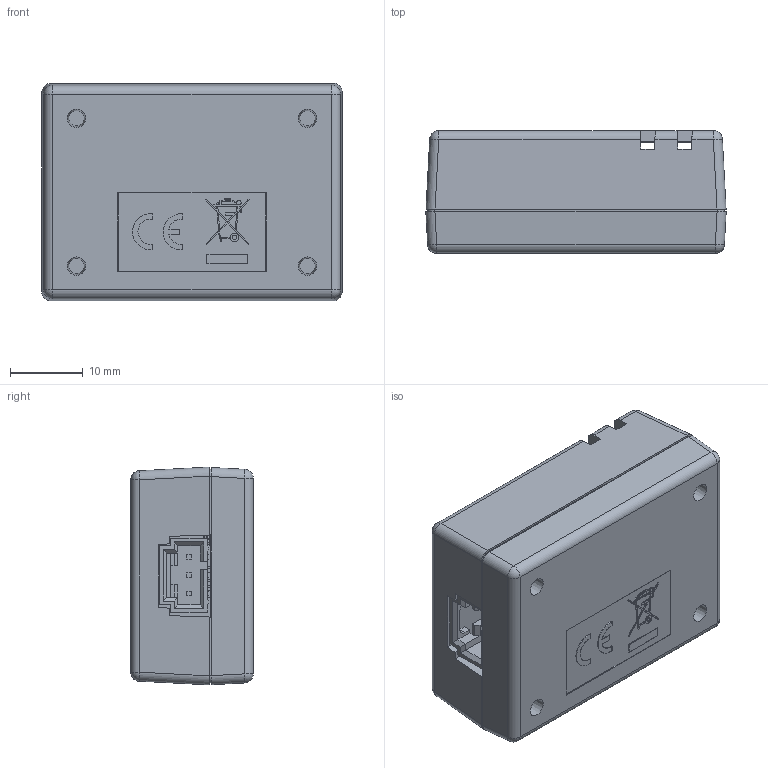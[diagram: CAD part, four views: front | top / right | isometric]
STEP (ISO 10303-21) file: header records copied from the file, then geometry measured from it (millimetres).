
FILE_DESCRIPTION(/* description */ ('Alibre Inc.'),/* implementation_level */ '2;1');
FILE_NAME(/* name */ 'export0',/* time_stamp */ '2018-08-09T08:51:02-06:00',/* author */ (''),/* organization */ (''),/* preprocessor_version */ 'ST-DEVELOPER v17',/* originating_system */ 'Alibre',/* authorisation */ '');
FILE_SCHEMA (('CONFIG_CONTROL_DESIGN'));
Length unit declared in the file: centimetre
Products named in the file (37): ID_1; ID_2; ID_3; ID_4; ID_5; ID_6; ID_7; ID_8; ID_9; ID_10; ID_11; ID_12; ID_13; ID_14
Bounding box: 41.27 x 16.82 x 29.93 mm (x, y, z)
Volume: 8702.5 mm3; surface area: 12532.7 mm2
Topology: 28 solids, 28 shells, 1265 faces, 3469 edges, 2288 vertices
Faces by surface type: plane 916, cylinder 174, bspline 155, cone 12, sphere 8
Full cylindrical faces by diameter (mm): 0.381 x1, 0.6 x1, 0.965 x3, 3.124 x4, 3.175 x4
Entity records: 42107 total; most frequent: CARTESIAN_POINT 10047, ORIENTED_EDGE 6560, DIRECTION 4224, EDGE_CURVE 3280, VECTOR 2475, LINE 2475, VERTEX_POINT 2172, EDGE_LOOP 1272
